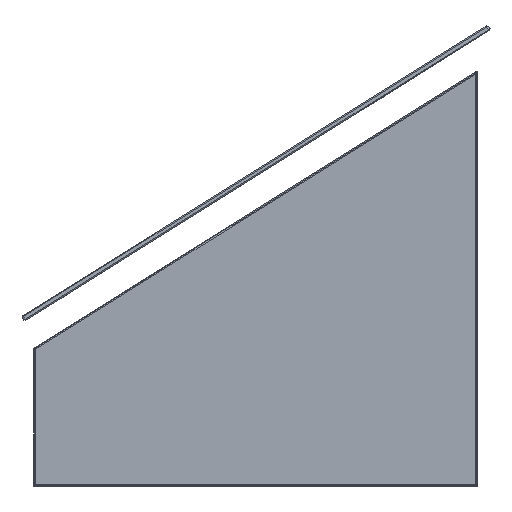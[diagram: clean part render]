
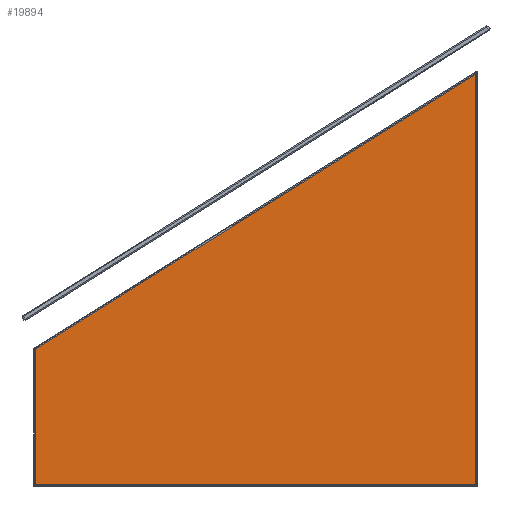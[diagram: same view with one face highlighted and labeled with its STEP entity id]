
A CAD part, left-side view. The second image highlights one B-rep face of the part: STEP entity #19894.
In plain terms, the highlighted planar face has unit normal (-1, 0, 0) as drawn and (1, 0, 0) by its records, which use the part's own axes.
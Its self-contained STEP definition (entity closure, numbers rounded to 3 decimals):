
#384 = DIRECTION ( 'NONE',  ( 0., 0., 1. ) ) ;
#2184 = VECTOR ( 'NONE', #6082, 1000. ) ;
#3061 = CARTESIAN_POINT ( 'NONE',  ( 562.73, 293.144, -26.808 ) ) ;
#6049 = DIRECTION ( 'NONE',  ( 0., 0., -1. ) ) ;
#6082 = DIRECTION ( 'NONE',  ( 0., 0.848, 0.53 ) ) ;
#8507 = CARTESIAN_POINT ( 'NONE',  ( 562.73, 293.144, 364.637 ) ) ;
#11256 = CARTESIAN_POINT ( 'NONE',  ( 562.73, 293.144, -27.808 ) ) ;
#11778 = LINE ( 'NONE', #36076, #2184 ) ;
#16332 = DIRECTION ( 'NONE',  ( 0., 1., 0. ) ) ;
#16379 = ORIENTED_EDGE ( 'NONE', *, *, #65062, .T. ) ;
#17969 = VERTEX_POINT ( 'NONE', #3061 ) ;
#18637 = CARTESIAN_POINT ( 'NONE',  ( 562.73, -126.856, 102.192 ) ) ;
#18708 = VECTOR ( 'NONE', #16332, 1000. ) ;
#19894 = ADVANCED_FACE ( 'NONE', ( #24293 ), #53506, .F. ) ;
#20008 = AXIS2_PLACEMENT_3D ( 'NONE', #35290, #69438, #6049 ) ;
#24293 = FACE_OUTER_BOUND ( 'NONE', #57168, .T. ) ;
#24610 = VERTEX_POINT ( 'NONE', #41015 ) ;
#28693 = VECTOR ( 'NONE', #384, 1000. ) ;
#30042 = ORIENTED_EDGE ( 'NONE', *, *, #31089, .F. ) ;
#31089 = EDGE_CURVE ( 'NONE', #44451, #24610, #70623, .T. ) ;
#33425 = VERTEX_POINT ( 'NONE', #8507 ) ;
#33556 = ORIENTED_EDGE ( 'NONE', *, *, #34137, .F. ) ;
#34137 = EDGE_CURVE ( 'NONE', #24610, #33425, #11778, .T. ) ;
#34543 = ORIENTED_EDGE ( 'NONE', *, *, #69108, .F. ) ;
#35290 = CARTESIAN_POINT ( 'NONE',  ( 562.73, 68.144, -27.808 ) ) ;
#35582 = VECTOR ( 'NONE', #69688, 1000. ) ;
#36076 = CARTESIAN_POINT ( 'NONE',  ( 562.73, 293.144, 364.637 ) ) ;
#41015 = CARTESIAN_POINT ( 'NONE',  ( 562.73, -126.856, 102.192 ) ) ;
#44451 = VERTEX_POINT ( 'NONE', #69181 ) ;
#45162 = LINE ( 'NONE', #62592, #18708 ) ;
#45427 = LINE ( 'NONE', #11256, #35582 ) ;
#53506 = PLANE ( 'NONE',  #20008 ) ;
#57168 = EDGE_LOOP ( 'NONE', ( #16379, #34543, #33556, #30042 ) ) ;
#62592 = CARTESIAN_POINT ( 'NONE',  ( 562.73, 68.144, -26.808 ) ) ;
#65062 = EDGE_CURVE ( 'NONE', #44451, #17969, #45162, .T. ) ;
#69108 = EDGE_CURVE ( 'NONE', #33425, #17969, #45427, .T. ) ;
#69181 = CARTESIAN_POINT ( 'NONE',  ( 562.73, -126.856, -26.808 ) ) ;
#69438 = DIRECTION ( 'NONE',  ( -1., 0., 0. ) ) ;
#69688 = DIRECTION ( 'NONE',  ( 0., 0., -1. ) ) ;
#70623 = LINE ( 'NONE', #18637, #28693 ) ;
